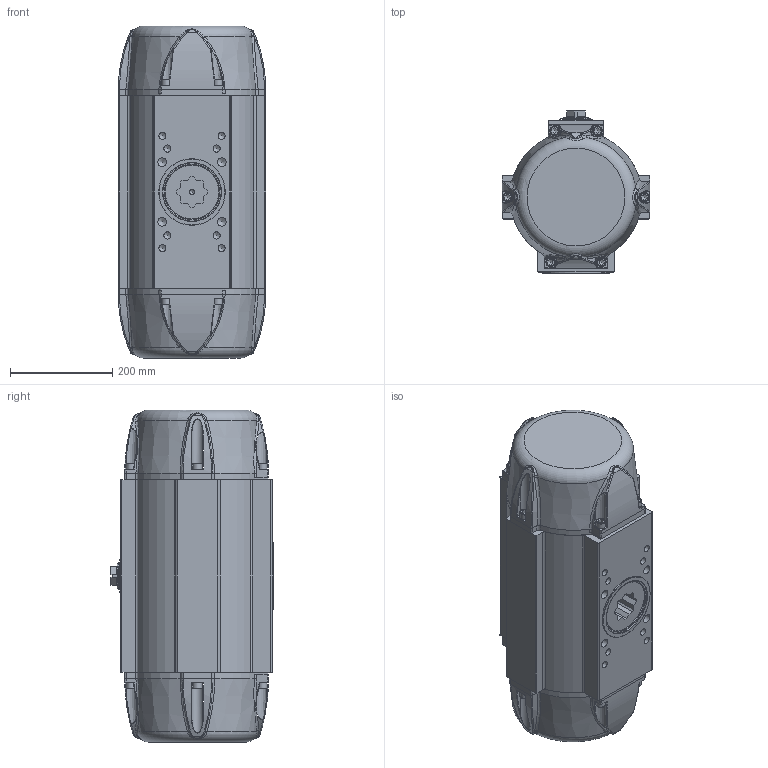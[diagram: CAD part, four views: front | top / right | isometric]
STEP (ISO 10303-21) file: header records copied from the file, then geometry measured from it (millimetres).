
FILE_DESCRIPTION((''),'2;1');
FILE_NAME('Z:\DOKUMENTATION ANTRIEBSPROGRAMM\Antriebe (neu)\BR16_SAD_SAF_90°\STEP-Dateien\43\SAF_43_BR16.stp','2017-06-20T14:34:04',('vmi'),(''),'Autodesk Inventor 2013','Autodesk Inventor 2013','');
FILE_SCHEMA(('AUTOMOTIVE_DESIGN { 1 0 10303 214 1 1 1 1 }'));
Length unit declared in the file: millimetre
Products named in the file (1): ENG-084391_Shrinkwrap_1
Bounding box: 288 x 319 x 649 mm (x, y, z)
Surface area: 826081.6 mm2 (no closed solid volume)
Topology: 0 solids, 44 shells, 521 faces, 1772 edges, 1216 vertices
Faces by surface type: plane 166, cylinder 153, bspline 128, cone 55, torus 19
Full cylindrical faces by diameter (mm): 4.134 x4, 4.917 x5, 8.376 x2, 13.835 x8, 17.294 x4, 18 x12, 18.631 x2, 37 x1, 49.6 x1, 106 x1, 114 x1, 130 x1
Entity records: 24092 total; most frequent: CARTESIAN_POINT 10089, ORIENTED_EDGE 2554, DIRECTION 2405, EDGE_CURVE 1617, VERTEX_POINT 1170, AXIS2_PLACEMENT_3D 923, EDGE_LOOP 675, VECTOR 559
